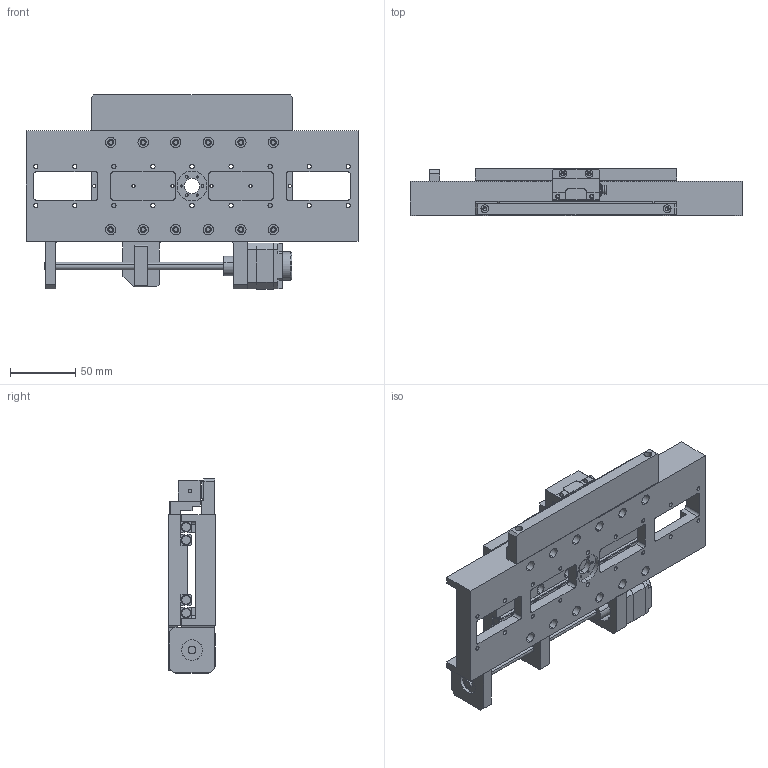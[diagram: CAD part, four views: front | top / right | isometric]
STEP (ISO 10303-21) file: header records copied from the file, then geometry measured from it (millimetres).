
FILE_DESCRIPTION (( 'STEP AP214' ), '1' );
FILE_NAME ('VSM17-X-100-E.STEP', '2022-12-15T13:54:55', ( '' ), ( '' ), 'SwSTEP 2.0', 'SolidWorks 2022', '' );
FILE_SCHEMA (( 'AUTOMOTIVE_DESIGN' ));
Length unit declared in the file: millimetre
Products named in the file (12): Simplified Drivetrain; Simplified VSM17-X-100 Encoder Scale mount; Simplified Leadscrew Nut; Simplified Roller Bearing 100; Cap Head M4x12.VentSLDPRT; Simplified VSM17-X Encoder Mount; Simplified VSM17-X-100 Carriage; VSM17-X-100-E; Simplified VSM17-X-100 Base V2; Simplified Renishaw RELA30-100 Scale; Simplified Motor; Simplified Encoder
Assembly tree (25 placements, depth 2):
  VSM17-X-100-E
    Simplified VSM17-X-100 Base V2
    Simplified Motor
    Simplified Drivetrain
    Simplified Roller Bearing 100  x4
    Simplified VSM17-X-100 Carriage
    Simplified Leadscrew Nut
    Simplified VSM17-X-100 Encoder Scale mount
    Simplified Renishaw RELA30-100 Scale
    Simplified VSM17-X Encoder Mount
    Simplified Encoder
    Cap Head M4x12.VentSLDPRT  x12
Bounding box: 255 x 36 x 149.2 mm (x, y, z)
Volume: 530031.7 mm3; surface area: 184895.4 mm2
Topology: 25 solids, 25 shells, 1320 faces, 3218 edges, 2030 vertices
Faces by surface type: plane 564, cylinder 548, cone 138, torus 70
Entity records: 25951 total; most frequent: DIRECTION 4392, CARTESIAN_POINT 4088, ORIENTED_EDGE 3888, EDGE_CURVE 1944, AXIS2_PLACEMENT_3D 1658, VERTEX_POINT 1268, VECTOR 1076, LINE 1076
